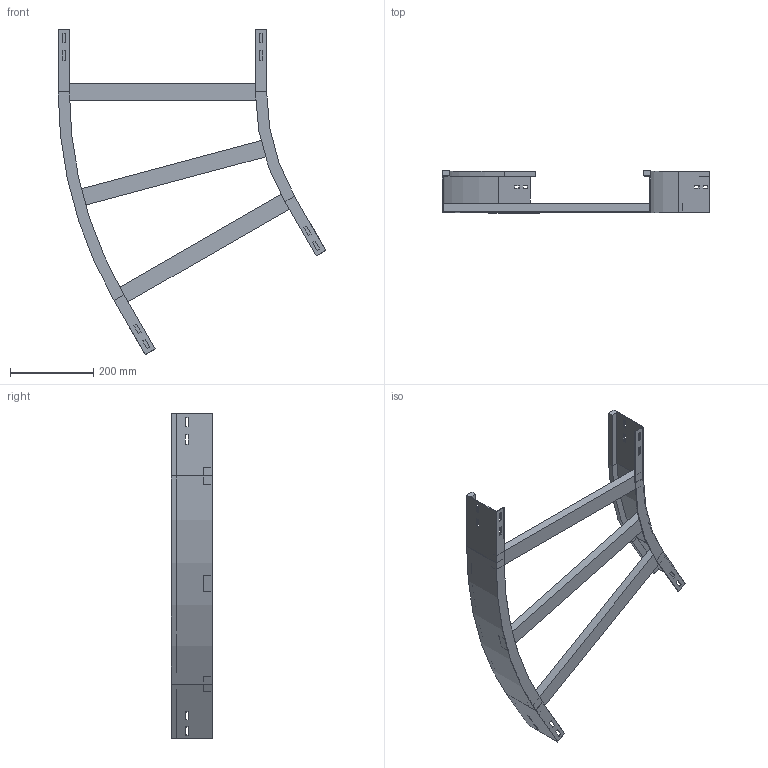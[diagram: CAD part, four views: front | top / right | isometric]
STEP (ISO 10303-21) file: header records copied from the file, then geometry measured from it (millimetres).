
FILE_DESCRIPTION (( 'STEP AP214' ), '1' );
FILE_NAME ('12B5D500.step', '2025-02-21T15:06:42', ( '' ), ( '' ), 'SwSTEP 2.0', 'SolidWorks 2023', '' );
FILE_SCHEMA (( 'AUTOMOTIVE_DESIGN' ));
Length unit declared in the file: millimetre
Products named in the file (4): A2_LONGH.INTERNO 30°_H100_R500; TRAVERSINO_500; 12B5D500; A2_LONGH.ESTERNO 30°_H100_R500+500
Assembly tree (5 placements, depth 2):
  12B5D500
    A2_LONGH.INTERNO 30°_H100_R500
    A2_LONGH.ESTERNO 30°_H100_R500+500
    TRAVERSINO_500  x3
Bounding box: 641.99 x 100 x 779.9 mm (x, y, z)
Volume: 1812698 mm3; surface area: 579827.9 mm2
Topology: 5 solids, 5 shells, 134 faces, 340 edges, 216 vertices
Faces by surface type: plane 126, cylinder 8
Entity records: 3821 total; most frequent: CARTESIAN_POINT 646, ORIENTED_EDGE 632, DIRECTION 592, EDGE_CURVE 316, VECTOR 300, LINE 300, VERTEX_POINT 200, EDGE_LOOP 154
